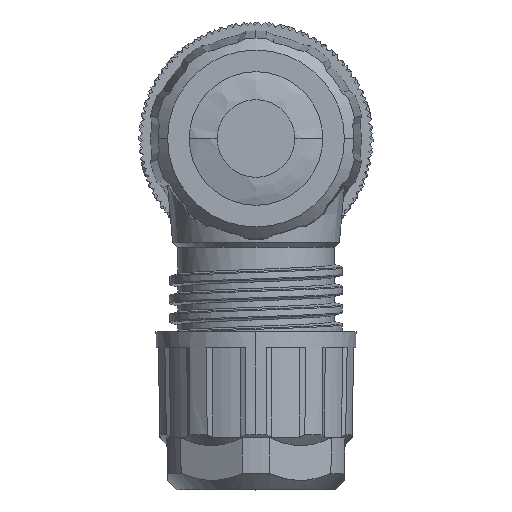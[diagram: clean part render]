
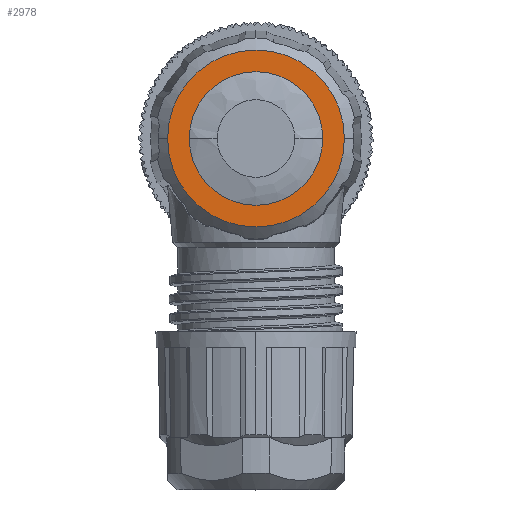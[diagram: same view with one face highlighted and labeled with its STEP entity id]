
A CAD part, top view. The second image highlights one B-rep face of the part: STEP entity #2978.
In plain terms, the highlighted planar face has unit normal (0, 0, 1).
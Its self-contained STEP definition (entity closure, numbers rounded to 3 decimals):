
#1945=PLANE('',#21796);
#2978=ADVANCED_FACE('',(#7070,#7071),#1945,.T.);
#7070=FACE_BOUND('',#8097,.T.);
#7071=FACE_BOUND('',#8098,.T.);
#8097=EDGE_LOOP('',(#13541,#13542));
#8098=EDGE_LOOP('',(#13543,#13544));
#13541=ORIENTED_EDGE('',*,*,#18844,.T.);
#13542=ORIENTED_EDGE('',*,*,#19012,.T.);
#13543=ORIENTED_EDGE('',*,*,#18782,.F.);
#13544=ORIENTED_EDGE('',*,*,#18965,.F.);
#15963=VERTEX_POINT('',#43560);
#15964=VERTEX_POINT('',#43561);
#16020=VERTEX_POINT('',#43950);
#16021=VERTEX_POINT('',#43952);
#18782=EDGE_CURVE('',#15963,#15964,#20023,.T.);
#18844=EDGE_CURVE('',#16021,#16020,#20034,.T.);
#18965=EDGE_CURVE('',#15964,#15963,#20061,.T.);
#19012=EDGE_CURVE('',#16020,#16021,#20068,.T.);
#20023=CIRCLE('',#21674,7.554);
#20034=CIRCLE('',#21690,5.707);
#20061=CIRCLE('',#21761,7.554);
#20068=CIRCLE('',#21795,5.707);
#21674=AXIS2_PLACEMENT_3D('',#43559,#26264,#26265);
#21690=AXIS2_PLACEMENT_3D('',#43951,#26304,#26305);
#21761=AXIS2_PLACEMENT_3D('',#44478,#26477,#26478);
#21795=AXIS2_PLACEMENT_3D('',#44650,#26563,#26564);
#21796=AXIS2_PLACEMENT_3D('',#44651,#26565,#26566);
#26264=DIRECTION('',(0.,0.,-1.));
#26265=DIRECTION('',(-1.,0.,0.));
#26304=DIRECTION('',(0.,0.,-1.));
#26305=DIRECTION('',(-1.,0.,0.));
#26477=DIRECTION('',(0.,0.,-1.));
#26478=DIRECTION('',(-1.,0.,0.));
#26563=DIRECTION('',(0.,0.,-1.));
#26564=DIRECTION('',(-1.,0.,0.));
#26565=DIRECTION('',(0.,0.,1.));
#26566=DIRECTION('',(-1.,0.,0.));
#43559=CARTESIAN_POINT('',(-0.294,54.,53.456));
#43560=CARTESIAN_POINT('',(-7.848,54.,53.456));
#43561=CARTESIAN_POINT('',(7.26,54.,53.456));
#43950=CARTESIAN_POINT('',(5.413,54.,53.456));
#43951=CARTESIAN_POINT('',(-0.294,54.,53.456));
#43952=CARTESIAN_POINT('',(-6.,54.,53.456));
#44478=CARTESIAN_POINT('',(-0.294,54.,53.456));
#44650=CARTESIAN_POINT('',(-0.294,54.,53.456));
#44651=CARTESIAN_POINT('',(-0.294,54.,53.456));
